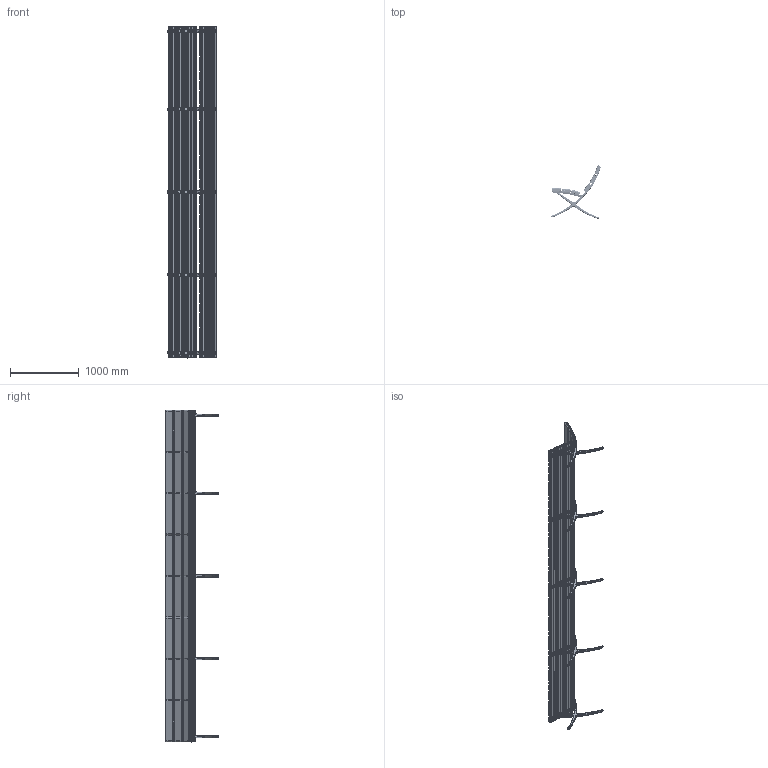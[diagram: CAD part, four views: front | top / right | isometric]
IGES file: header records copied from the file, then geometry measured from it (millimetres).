
Start section: SolidWorks IGES file using analytic representation for surfaces
Global section: file name: W:\OFICINA TÉCNICA 9001\2-MOBILIARIO E INSTALACIÓN\394- BENCH B\PLANOS TÉCNICOS\2D-3D\IGS\MI-394-05-06-F230113-BENCH B 8PLAZAS TAPIZADO.IGS; native system: SolidWorks 2011; preprocessor: SolidWorks 2011; author: otecnica01; date: 140707.135622; units: millimetre
Bounding box: 711.89 x 776.79 x 4813.01 mm (x, y, z)
Volume: 124493544.1 mm3; surface area: 26024883.3 mm2
Topology: 208 solids, 208 shells, 6058 faces, 14497 edges, 8787 vertices
Faces by surface type: revolution 3455, plane 2008, bspline 595
